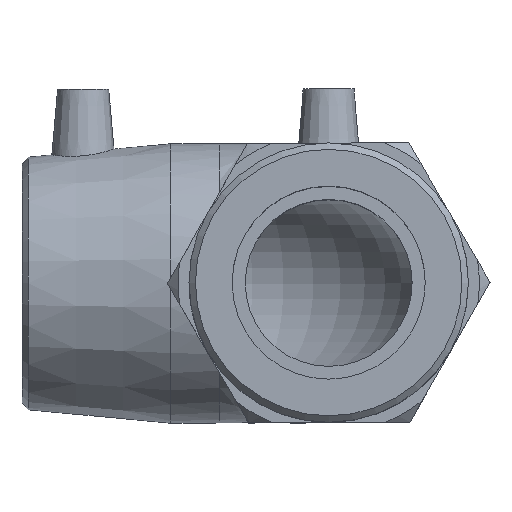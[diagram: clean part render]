
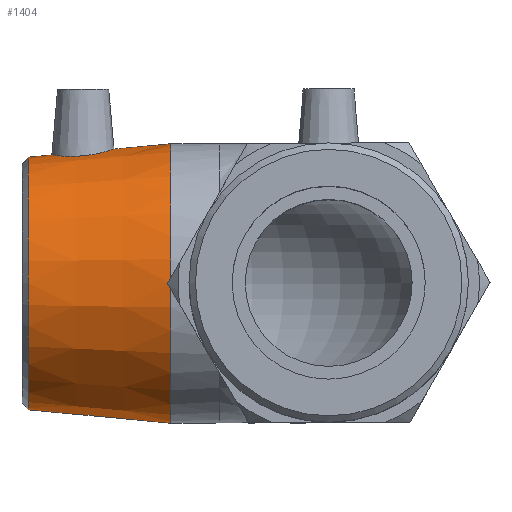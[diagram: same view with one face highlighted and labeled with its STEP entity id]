
A CAD part, top view. The second image highlights one B-rep face of the part: STEP entity #1404.
In plain terms, the highlighted conical face has half-angle 5.364 degrees and reference radius 38.95 mm.
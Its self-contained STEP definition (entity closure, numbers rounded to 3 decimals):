
#17=B_SPLINE_CURVE_WITH_KNOTS('',3,(#2360,#2361,#2362,#2363,#2364,#2365,
#2366,#2367,#2368,#2369,#2370,#2371,#2372,#2373,#2374,#2375,#2376,#2377,
#2378,#2379,#2380,#2381,#2382,#2383,#2384,#2385,#2386,#2387,#2388,#2389,
#2390,#2391,#2392,#2393),.UNSPECIFIED.,.T.,.F.,(4,2,2,2,2,2,2,2,2,2,2,2,
2,2,2,2,4),(0.,0.34,0.679,1.02,1.362,
1.703,2.045,2.384,2.724,3.081,
3.438,3.789,4.14,4.491,4.842,
5.199,5.556),.UNSPECIFIED.);
#24=FACE_BOUND('',#283,.T.);
#25=FACE_BOUND('',#284,.T.);
#135=CONICAL_SURFACE('',#1540,38.95,5.364);
#189=FACE_OUTER_BOUND('',#282,.T.);
#282=EDGE_LOOP('',(#1142));
#283=EDGE_LOOP('',(#1143));
#284=EDGE_LOOP('',(#1144));
#401=CIRCLE('',#1539,37.077);
#402=CIRCLE('',#1541,41.);
#676=VERTEX_POINT('',#2354);
#677=VERTEX_POINT('',#2357);
#678=VERTEX_POINT('',#2359);
#849=EDGE_CURVE('',#676,#676,#401,.T.);
#850=EDGE_CURVE('',#677,#677,#402,.T.);
#851=EDGE_CURVE('',#678,#678,#17,.T.);
#1142=ORIENTED_EDGE('',*,*,#850,.F.);
#1143=ORIENTED_EDGE('',*,*,#851,.T.);
#1144=ORIENTED_EDGE('',*,*,#849,.F.);
#1404=ADVANCED_FACE('',(#189,#24,#25),#135,.T.);
#1539=AXIS2_PLACEMENT_3D('',#2355,#1869,#1870);
#1540=AXIS2_PLACEMENT_3D('',#2356,#1871,#1872);
#1541=AXIS2_PLACEMENT_3D('',#2358,#1873,#1874);
#1869=DIRECTION('center_axis',(-1.,0.,0.));
#1870=DIRECTION('ref_axis',(0.,-1.,0.));
#1871=DIRECTION('center_axis',(1.,0.,0.));
#1872=DIRECTION('ref_axis',(0.,1.,0.));
#1873=DIRECTION('center_axis',(1.,0.,0.));
#1874=DIRECTION('ref_axis',(0.,0.,-1.));
#2354=CARTESIAN_POINT('',(-88.118,37.077,0.));
#2355=CARTESIAN_POINT('Origin',(-88.118,0.,0.));
#2356=CARTESIAN_POINT('Origin',(-68.167,0.,
0.));
#2357=CARTESIAN_POINT('',(-46.333,41.,0.));
#2358=CARTESIAN_POINT('Origin',(-46.333,0.,
0.));
#2359=CARTESIAN_POINT('',(-72.33,37.444,9.207));
#2360=CARTESIAN_POINT('Ctrl Pts',(-72.33,37.444,9.207));
#2361=CARTESIAN_POINT('Ctrl Pts',(-73.457,37.341,9.181));
#2362=CARTESIAN_POINT('Ctrl Pts',(-74.657,37.289,8.93));
#2363=CARTESIAN_POINT('Ctrl Pts',(-76.856,37.296,7.964));
#2364=CARTESIAN_POINT('Ctrl Pts',(-77.855,37.352,7.25));
#2365=CARTESIAN_POINT('Ctrl Pts',(-79.43,37.482,5.621));
#2366=CARTESIAN_POINT('Ctrl Pts',(-80.112,37.565,4.594));
#2367=CARTESIAN_POINT('Ctrl Pts',(-81.015,37.687,2.353));
#2368=CARTESIAN_POINT('Ctrl Pts',(-81.237,37.723,1.138));
#2369=CARTESIAN_POINT('Ctrl Pts',(-81.237,37.723,-1.138));
#2370=CARTESIAN_POINT('Ctrl Pts',(-81.015,37.687,-2.353));
#2371=CARTESIAN_POINT('Ctrl Pts',(-80.112,37.565,-4.594));
#2372=CARTESIAN_POINT('Ctrl Pts',(-79.43,37.482,-5.621));
#2373=CARTESIAN_POINT('Ctrl Pts',(-77.855,37.352,-7.25));
#2374=CARTESIAN_POINT('Ctrl Pts',(-76.856,37.296,-7.964));
#2375=CARTESIAN_POINT('Ctrl Pts',(-74.657,37.289,-8.93));
#2376=CARTESIAN_POINT('Ctrl Pts',(-73.457,37.341,-9.181));
#2377=CARTESIAN_POINT('Ctrl Pts',(-71.144,37.552,-9.233));
#2378=CARTESIAN_POINT('Ctrl Pts',(-69.887,37.73,-9.014));
#2379=CARTESIAN_POINT('Ctrl Pts',(-67.583,38.162,-8.08));
#2380=CARTESIAN_POINT('Ctrl Pts',(-66.536,38.413,-7.365));
#2381=CARTESIAN_POINT('Ctrl Pts',(-64.897,38.847,-5.723));
#2382=CARTESIAN_POINT('Ctrl Pts',(-64.189,39.06,-4.689));
#2383=CARTESIAN_POINT('Ctrl Pts',(-63.247,39.355,-2.413));
#2384=CARTESIAN_POINT('Ctrl Pts',(-63.013,39.434,-1.17));
#2385=CARTESIAN_POINT('Ctrl Pts',(-63.013,39.434,1.17));
#2386=CARTESIAN_POINT('Ctrl Pts',(-63.247,39.355,2.413));
#2387=CARTESIAN_POINT('Ctrl Pts',(-64.189,39.06,4.689));
#2388=CARTESIAN_POINT('Ctrl Pts',(-64.897,38.847,5.723));
#2389=CARTESIAN_POINT('Ctrl Pts',(-66.536,38.413,7.365));
#2390=CARTESIAN_POINT('Ctrl Pts',(-67.583,38.162,8.08));
#2391=CARTESIAN_POINT('Ctrl Pts',(-69.887,37.73,9.014));
#2392=CARTESIAN_POINT('Ctrl Pts',(-71.144,37.552,9.233));
#2393=CARTESIAN_POINT('Ctrl Pts',(-72.33,37.444,9.207));
